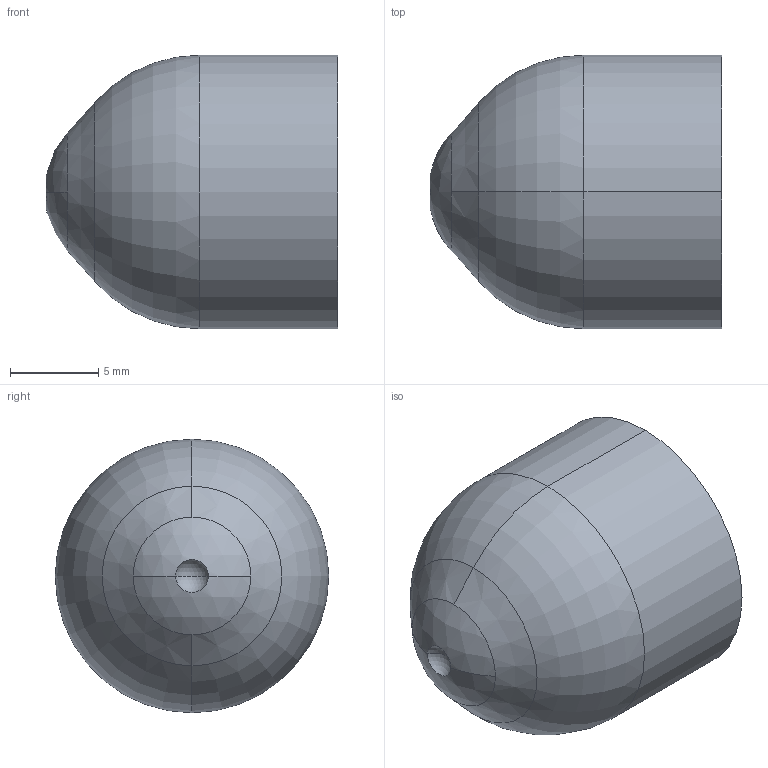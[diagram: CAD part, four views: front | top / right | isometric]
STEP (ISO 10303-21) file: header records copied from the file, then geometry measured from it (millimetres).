
FILE_DESCRIPTION (( 'STEP AP214' ), '1' );
FILE_NAME ('8001012_CUS.STEP', '2022-07-05T14:42:58', ( '' ), ( '' ), 'SwSTEP 2.0', 'SolidWorks 2020', '' );
FILE_SCHEMA (( 'AUTOMOTIVE_DESIGN' ));
Length unit declared in the file: millimetre
Products named in the file (1): 8001012_CUS
Bounding box: 16.54 x 15.52 x 15.52 mm (x, y, z)
Volume: 582.1 mm3; surface area: 1467.8 mm2
Topology: 1 solids, 1 shells, 24 faces, 48 edges, 27 vertices
Faces by surface type: torus 8, cylinder 6, cone 4, sphere 4, plane 2
Entity records: 664 total; most frequent: DIRECTION 136, CARTESIAN_POINT 100, ORIENTED_EDGE 96, AXIS2_PLACEMENT_3D 63, EDGE_CURVE 48, CIRCLE 38, VERTEX_POINT 27, EDGE_LOOP 25
